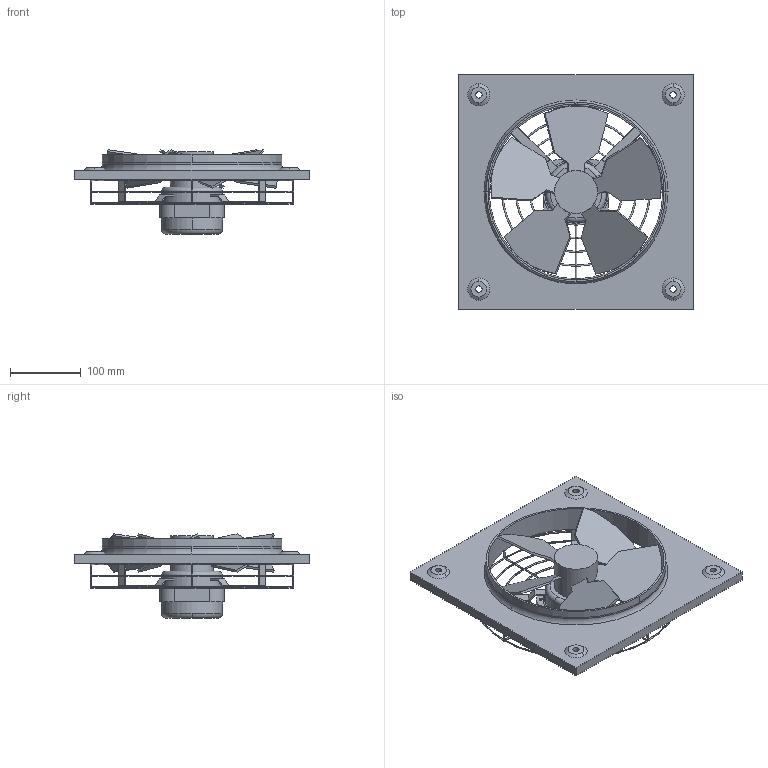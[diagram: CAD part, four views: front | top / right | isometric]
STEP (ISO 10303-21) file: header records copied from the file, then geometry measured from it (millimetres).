
FILE_DESCRIPTION(('STEP AP214'),'1');
FILE_NAME('fan_5110002200.stp','2017-06-30T15:25:17',('TraceParts'),('TraceParts S.A.'),'Spatial InterOp 3D',' ',' ');
FILE_SCHEMA(('automotive_design'));
Length unit declared in the file: millimetre
Products named in the file (1): fan_5110002200
Bounding box: 333 x 333 x 119.71 mm (x, y, z)
Volume: 1621249.6 mm3; surface area: 348747.6 mm2
Topology: 1 solids, 1 shells, 296 faces, 839 edges, 507 vertices
Faces by surface type: plane 109, cylinder 103, torus 68, cone 16
Entity records: 17536 total; most frequent: CARTESIAN_POINT 7651, ORIENTED_EDGE 1678, DIRECTION 1462, EDGE_CURVE 839, AXIS2_PLACEMENT_3D 558, VERTEX_POINT 507, LINE 346, VECTOR 346
